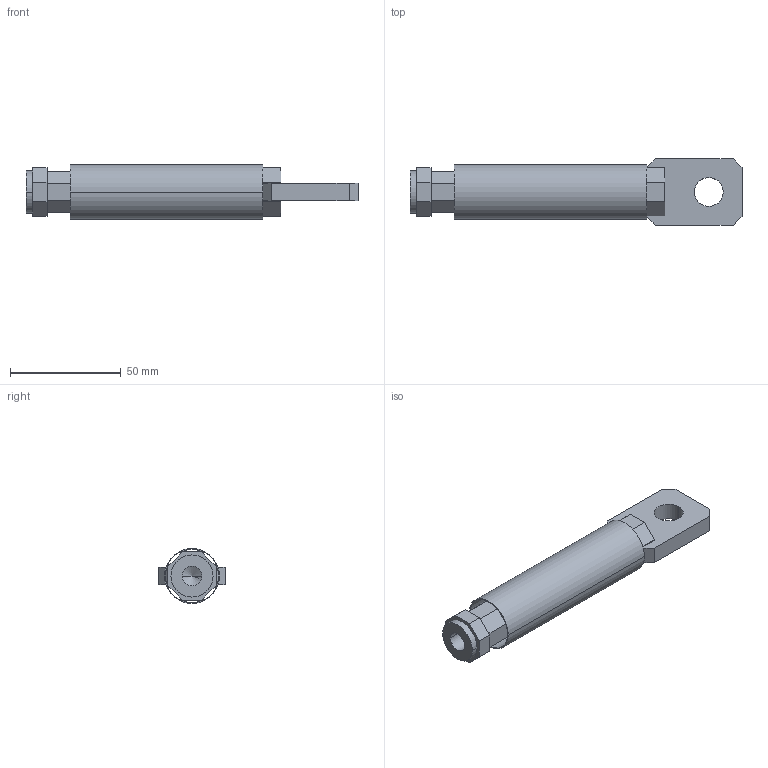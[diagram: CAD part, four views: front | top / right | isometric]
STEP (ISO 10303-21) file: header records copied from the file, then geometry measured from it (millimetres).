
FILE_DESCRIPTION((''),'2;1');
FILE_NAME('U6_LONG_REAR_CONDUCTOR_ASSY_ASM','2018-06-04T',('HHI'),(''),'PRO/ENGINEER BY PARAMETRIC TECHNOLOGY CORPORATION, 2012453','PRO/ENGINEER BY PARAMETRIC TECHNOLOGY CORPORATION, 2012453','');
FILE_SCHEMA(('CONFIG_CONTROL_DESIGN'));
Length unit declared in the file: millimetre
Products named in the file (4): U6_LONG_REAR_CONDUCTOR_AF0; U6_REAR_BUSBAR; U6_RCT_INSULATION_TUBE_AF0; U6_LONG_REAR_CONDUCTOR_ASSY_ASM
Assembly tree (3 placements, depth 2):
  U6_LONG_REAR_CONDUCTOR_ASSY_ASM
    U6_LONG_REAR_CONDUCTOR_AF0
    U6_REAR_BUSBAR
    U6_RCT_INSULATION_TUBE_AF0
Bounding box: 150 x 30 x 24.8 mm (x, y, z)
Volume: 49637 mm3; surface area: 26900.2 mm2
Topology: 3 solids, 3 shells, 93 faces, 238 edges, 157 vertices
Faces by surface type: plane 81, cylinder 10, cone 2
Entity records: 2878 total; most frequent: CARTESIAN_POINT 493, ORIENTED_EDGE 472, DIRECTION 456, EDGE_CURVE 236, VECTOR 216, LINE 216, VERTEX_POINT 157, AXIS2_PLACEMENT_3D 120
